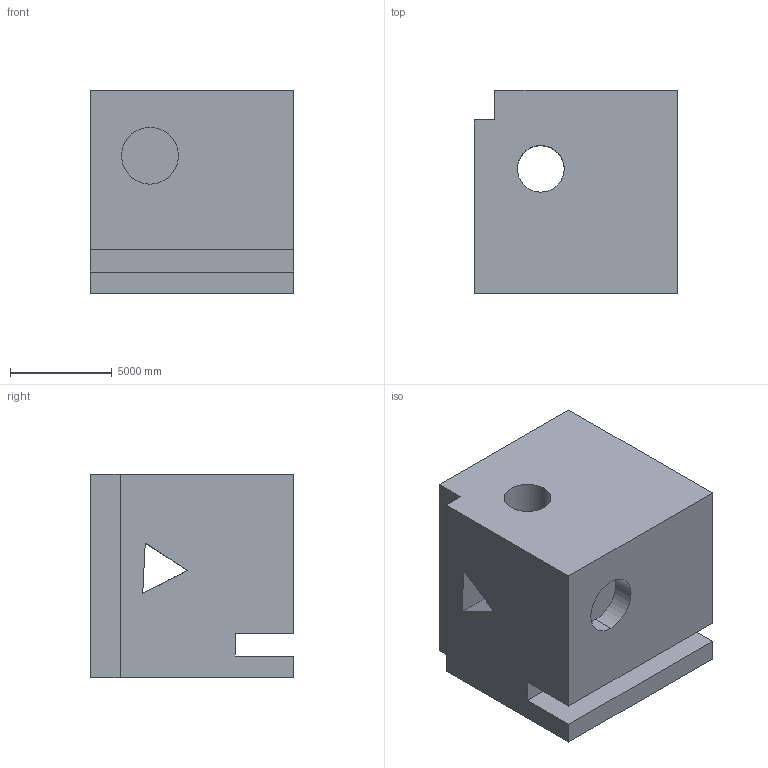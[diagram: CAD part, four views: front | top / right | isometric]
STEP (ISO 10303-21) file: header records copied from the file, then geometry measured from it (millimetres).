
FILE_DESCRIPTION (( 'STEP AP203' ), '1' );
FILE_NAME ('1608.STEP', '2022-08-18T16:07:51', ( 'user' ), ( '' ), 'SwSTEP 2.0', 'SolidWorks 2021', '' );
FILE_SCHEMA (( 'CONFIG_CONTROL_DESIGN' ));
Length unit declared in the file: centimetre
Products named in the file (1): 1608
Bounding box: 10000 x 10000 x 10000 mm (x, y, z)
Volume: 851069768854.6 mm3; surface area: 809552551.5 mm2
Topology: 1 solids, 1 shells, 36 faces, 105 edges, 70 vertices
Faces by surface type: plane 29, cylinder 7
Entity records: 1303 total; most frequent: CARTESIAN_POINT 260, ORIENTED_EDGE 210, DIRECTION 187, EDGE_CURVE 105, LINE 81, VECTOR 81, VERTEX_POINT 70, AXIS2_PLACEMENT_3D 53
